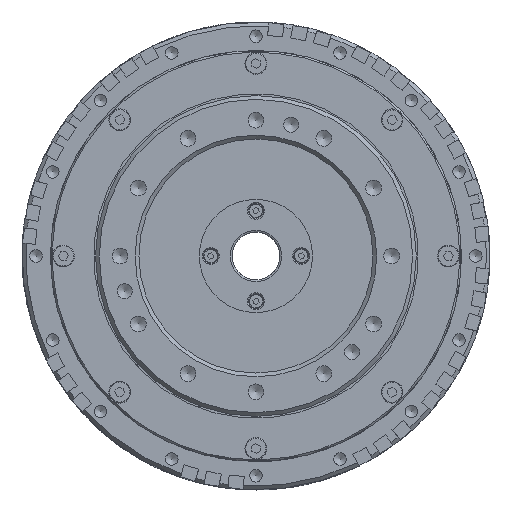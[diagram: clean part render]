
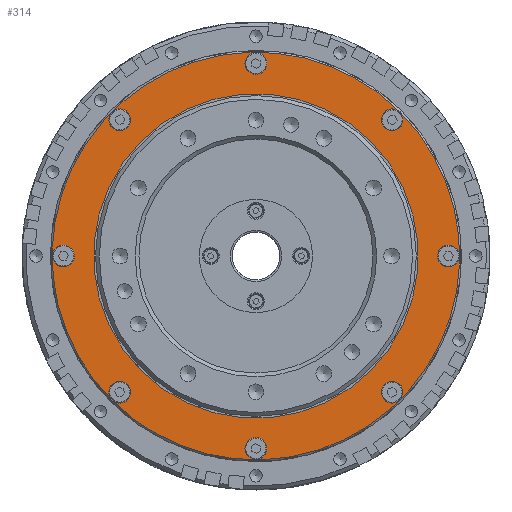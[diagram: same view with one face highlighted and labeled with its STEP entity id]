
A CAD part, front view. The second image highlights one B-rep face of the part: STEP entity #314.
In plain terms, the highlighted planar face has unit normal (0, -1, 0).
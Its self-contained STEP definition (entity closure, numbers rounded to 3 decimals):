
#16 = VERTEX_POINT ( 'NONE', #15343 ) ;
#314 = ADVANCED_FACE ( 'NONE', ( #3155, #10214, #21393, #10453, #36238, #2902, #17751, #32600, #25291, #47457 ), #40125, .F. ) ;
#636 = EDGE_CURVE ( 'NONE', #9523, #9523, #37146, .T. ) ;
#1412 = CIRCLE ( 'NONE', #15427, 2.9 ) ;
#1735 = EDGE_CURVE ( 'NONE', #24371, #24371, #47345, .T. ) ;
#2120 = CARTESIAN_POINT ( 'NONE',  ( 0., 0., -51. ) ) ;
#2712 = ORIENTED_EDGE ( 'NONE', *, *, #11076, .F. ) ;
#2902 = FACE_BOUND ( 'NONE', #10910, .T. ) ;
#3155 = FACE_BOUND ( 'NONE', #3422, .T. ) ;
#3422 = EDGE_LOOP ( 'NONE', ( #6732 ) ) ;
#3425 = VERTEX_POINT ( 'NONE', #14149 ) ;
#3468 = CARTESIAN_POINT ( 'NONE',  ( -36.062, 0., -36.062 ) ) ;
#5118 = AXIS2_PLACEMENT_3D ( 'NONE', #16600, #8353, #41690 ) ;
#5342 = AXIS2_PLACEMENT_3D ( 'NONE', #22375, #18730, #40868 ) ;
#5344 = VERTEX_POINT ( 'NONE', #31850 ) ;
#5601 = EDGE_CURVE ( 'NONE', #29941, #29941, #8472, .T. ) ;
#5782 = CARTESIAN_POINT ( 'NONE',  ( -36.062, 0., 36.062 ) ) ;
#6003 = EDGE_CURVE ( 'NONE', #3425, #3425, #37435, .T. ) ;
#6033 = CARTESIAN_POINT ( 'NONE',  ( 0., 0., 0. ) ) ;
#6150 = EDGE_LOOP ( 'NONE', ( #26029 ) ) ;
#6590 = CARTESIAN_POINT ( 'NONE',  ( 0., 0., 43. ) ) ;
#6732 = ORIENTED_EDGE ( 'NONE', *, *, #26469, .F. ) ;
#8279 = CARTESIAN_POINT ( 'NONE',  ( 0., 0., 48.1 ) ) ;
#8353 = DIRECTION ( 'NONE',  ( 0., -1., 0. ) ) ;
#8472 = CIRCLE ( 'NONE', #5342, 54. ) ;
#9082 = EDGE_LOOP ( 'NONE', ( #45301 ) ) ;
#9523 = VERTEX_POINT ( 'NONE', #28264 ) ;
#10077 = EDGE_CURVE ( 'NONE', #15828, #15828, #43116, .T. ) ;
#10214 = FACE_BOUND ( 'NONE', #16113, .T. ) ;
#10413 = DIRECTION ( 'NONE',  ( 0., 0., -1. ) ) ;
#10453 = FACE_BOUND ( 'NONE', #14282, .T. ) ;
#10724 = CARTESIAN_POINT ( 'NONE',  ( 0., 0., 54. ) ) ;
#10910 = EDGE_LOOP ( 'NONE', ( #32104 ) ) ;
#10926 = ORIENTED_EDGE ( 'NONE', *, *, #15430, .F. ) ;
#11076 = EDGE_CURVE ( 'NONE', #16052, #16052, #31541, .T. ) ;
#12066 = AXIS2_PLACEMENT_3D ( 'NONE', #26296, #40172, #47976 ) ;
#12947 = VERTEX_POINT ( 'NONE', #41920 ) ;
#13381 = DIRECTION ( 'NONE',  ( 0., 1., 0. ) ) ;
#14149 = CARTESIAN_POINT ( 'NONE',  ( 36.062, 0., -38.962 ) ) ;
#14165 = ORIENTED_EDGE ( 'NONE', *, *, #5601, .T. ) ;
#14282 = EDGE_LOOP ( 'NONE', ( #37581 ) ) ;
#15156 = ORIENTED_EDGE ( 'NONE', *, *, #10077, .F. ) ;
#15343 = CARTESIAN_POINT ( 'NONE',  ( -36.062, 0., -38.962 ) ) ;
#15427 = AXIS2_PLACEMENT_3D ( 'NONE', #20785, #39511, #35876 ) ;
#15430 = EDGE_CURVE ( 'NONE', #5344, #5344, #1412, .T. ) ;
#15828 = VERTEX_POINT ( 'NONE', #30439 ) ;
#16052 = VERTEX_POINT ( 'NONE', #8279 ) ;
#16113 = EDGE_LOOP ( 'NONE', ( #10926 ) ) ;
#16600 = CARTESIAN_POINT ( 'NONE',  ( 0., 0., 51. ) ) ;
#16645 = CARTESIAN_POINT ( 'NONE',  ( 36.062, 0., 33.162 ) ) ;
#16963 = DIRECTION ( 'NONE',  ( 0., -1., 0. ) ) ;
#17591 = EDGE_LOOP ( 'NONE', ( #15156 ) ) ;
#17751 = FACE_BOUND ( 'NONE', #47588, .T. ) ;
#17840 = DIRECTION ( 'NONE',  ( 0., 0., -1. ) ) ;
#17996 = CARTESIAN_POINT ( 'NONE',  ( 0., 0., 0. ) ) ;
#18730 = DIRECTION ( 'NONE',  ( 0., -1., 0. ) ) ;
#20785 = CARTESIAN_POINT ( 'NONE',  ( 51., 0., 0. ) ) ;
#21100 = AXIS2_PLACEMENT_3D ( 'NONE', #47171, #43269, #10413 ) ;
#21393 = FACE_BOUND ( 'NONE', #25672, .T. ) ;
#22191 = DIRECTION ( 'NONE',  ( 0., -1., 0. ) ) ;
#22375 = CARTESIAN_POINT ( 'NONE',  ( 0., 0., 0. ) ) ;
#22653 = CIRCLE ( 'NONE', #35833, 2.9 ) ;
#23515 = ORIENTED_EDGE ( 'NONE', *, *, #6003, .F. ) ;
#23818 = DIRECTION ( 'NONE',  ( 0., 0., 1. ) ) ;
#24371 = VERTEX_POINT ( 'NONE', #6590 ) ;
#25231 = DIRECTION ( 'NONE',  ( 0., 0., -1. ) ) ;
#25291 = FACE_OUTER_BOUND ( 'NONE', #31623, .T. ) ;
#25672 = EDGE_LOOP ( 'NONE', ( #23515 ) ) ;
#26029 = ORIENTED_EDGE ( 'NONE', *, *, #1735, .T. ) ;
#26296 = CARTESIAN_POINT ( 'NONE',  ( -51., 0., 0. ) ) ;
#26469 = EDGE_CURVE ( 'NONE', #45880, #45880, #32673, .T. ) ;
#28186 = DIRECTION ( 'NONE',  ( 0., 0., -1. ) ) ;
#28199 = DIRECTION ( 'NONE',  ( 0., 1., 0. ) ) ;
#28234 = DIRECTION ( 'NONE',  ( 0., 0., 1. ) ) ;
#28264 = CARTESIAN_POINT ( 'NONE',  ( 0., 0., -53.9 ) ) ;
#29835 = DIRECTION ( 'NONE',  ( 0., -1., 0. ) ) ;
#29941 = VERTEX_POINT ( 'NONE', #10724 ) ;
#30439 = CARTESIAN_POINT ( 'NONE',  ( -51., 0., -2.9 ) ) ;
#31541 = CIRCLE ( 'NONE', #5118, 2.9 ) ;
#31623 = EDGE_LOOP ( 'NONE', ( #14165 ) ) ;
#31756 = AXIS2_PLACEMENT_3D ( 'NONE', #6033, #28199, #23818 ) ;
#31850 = CARTESIAN_POINT ( 'NONE',  ( 51., 0., -2.9 ) ) ;
#32104 = ORIENTED_EDGE ( 'NONE', *, *, #39732, .F. ) ;
#32600 = FACE_BOUND ( 'NONE', #6150, .T. ) ;
#32673 = CIRCLE ( 'NONE', #45911, 2.9 ) ;
#35459 = DIRECTION ( 'NONE',  ( 0., -1., 0. ) ) ;
#35833 = AXIS2_PLACEMENT_3D ( 'NONE', #5782, #35459, #28186 ) ;
#35876 = DIRECTION ( 'NONE',  ( 0., 0., -1. ) ) ;
#36238 = FACE_BOUND ( 'NONE', #9082, .T. ) ;
#36390 = AXIS2_PLACEMENT_3D ( 'NONE', #2120, #16963, #25231 ) ;
#36879 = CARTESIAN_POINT ( 'NONE',  ( 36.062, 0., 36.062 ) ) ;
#37146 = CIRCLE ( 'NONE', #36390, 2.9 ) ;
#37435 = CIRCLE ( 'NONE', #21100, 2.9 ) ;
#37581 = ORIENTED_EDGE ( 'NONE', *, *, #636, .F. ) ;
#39511 = DIRECTION ( 'NONE',  ( 0., -1., 0. ) ) ;
#39732 = EDGE_CURVE ( 'NONE', #12947, #12947, #22653, .T. ) ;
#40125 = PLANE ( 'NONE',  #45022 ) ;
#40172 = DIRECTION ( 'NONE',  ( 0., -1., 0. ) ) ;
#40868 = DIRECTION ( 'NONE',  ( 0., 0., 1. ) ) ;
#41690 = DIRECTION ( 'NONE',  ( 0., 0., -1. ) ) ;
#41920 = CARTESIAN_POINT ( 'NONE',  ( -36.062, 0., 33.162 ) ) ;
#42720 = CIRCLE ( 'NONE', #45102, 2.9 ) ;
#43116 = CIRCLE ( 'NONE', #12066, 2.9 ) ;
#43269 = DIRECTION ( 'NONE',  ( 0., -1., 0. ) ) ;
#44665 = DIRECTION ( 'NONE',  ( 0., 0., -1. ) ) ;
#45022 = AXIS2_PLACEMENT_3D ( 'NONE', #17996, #13381, #28234 ) ;
#45102 = AXIS2_PLACEMENT_3D ( 'NONE', #3468, #22191, #17840 ) ;
#45301 = ORIENTED_EDGE ( 'NONE', *, *, #45849, .F. ) ;
#45849 = EDGE_CURVE ( 'NONE', #16, #16, #42720, .T. ) ;
#45880 = VERTEX_POINT ( 'NONE', #16645 ) ;
#45911 = AXIS2_PLACEMENT_3D ( 'NONE', #36879, #29835, #44665 ) ;
#47171 = CARTESIAN_POINT ( 'NONE',  ( 36.062, 0., -36.062 ) ) ;
#47345 = CIRCLE ( 'NONE', #31756, 43. ) ;
#47457 = FACE_BOUND ( 'NONE', #17591, .T. ) ;
#47588 = EDGE_LOOP ( 'NONE', ( #2712 ) ) ;
#47976 = DIRECTION ( 'NONE',  ( 0., 0., -1. ) ) ;
